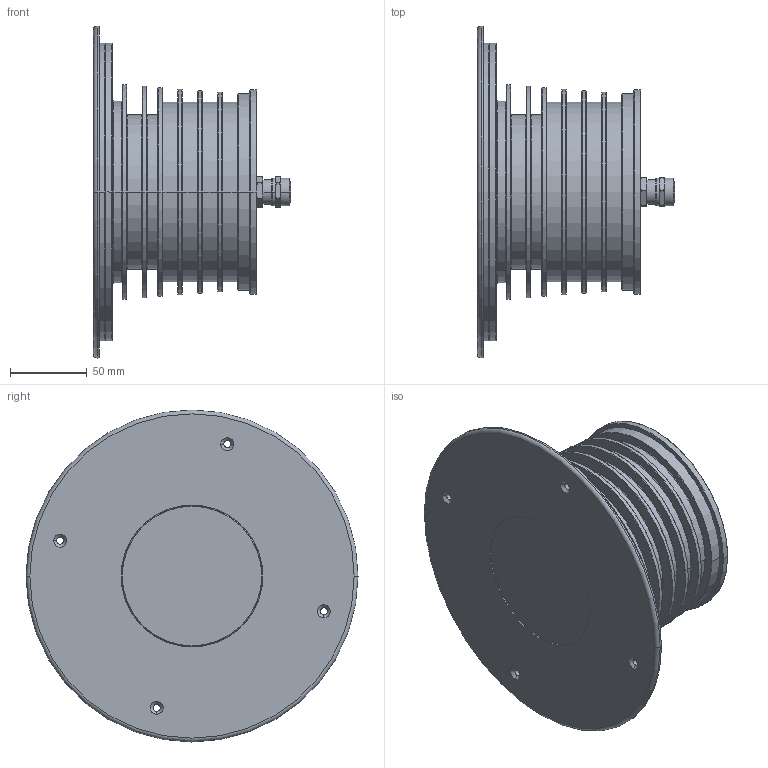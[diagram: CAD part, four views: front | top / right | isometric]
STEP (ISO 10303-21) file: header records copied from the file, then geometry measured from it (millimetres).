
FILE_DESCRIPTION (( 'STEP AP214' ), '1' );
FILE_NAME ('Ground-Big-RD.STEP', '2023-04-03T06:17:20', ( '' ), ( '' ), 'SwSTEP 2.0', 'SolidWorks 2017', '' );
FILE_SCHEMA (( 'AUTOMOTIVE_DESIGN' ));
Length unit declared in the file: millimetre
Products named in the file (39): DK151110DD31_70; DK151110DD31_68; DK151110DD31_27; DK151110DD31_34; DK151110DD31_5; DK151110DD31_62; DK151110DD31_56; DK151110DD31_19; DK151110DD31_8; DK151110DD31_46; DK151110DD31_64; Ground-Big-RD; DK151110DD31_50; DK151110DD31_52; DK151110DD31_53; DK151110DD31_11; DK151110DD31_54; DK151110DD31_25; DK151110DD31; DK151110DD31_29; DK151110DD31_32; DK151110DD31_71; DK151110DD31_69; DK151110DD31_48; DK151110DD31_16; DK151110DD31_18; DK151110DD31_10; DK151110DD31_20; DK151110DD31_42; DK151110DD31_45; DK151110DD31_2; DK151110DD31_51; DK151110DD31_17; DK151110DD31_41; DK151110DD31_39; DK151110DD31_14; DK151110DD31_44; DK151110DD31_21; DK151110DD31_28
Assembly tree (38 placements, depth 2):
  Ground-Big-RD
    DK151110DD31_62
    DK151110DD31_48
    DK151110DD31_17
    DK151110DD31_41
    DK151110DD31_53
    DK151110DD31_50
    DK151110DD31_69
    DK151110DD31_16
    DK151110DD31_52
    DK151110DD31_21
    DK151110DD31_68
    DK151110DD31_11
    DK151110DD31_14
    DK151110DD31_25
    DK151110DD31_32
    DK151110DD31_56
    DK151110DD31_28
    DK151110DD31_8
    DK151110DD31_46
    DK151110DD31_10
    DK151110DD31_39
    DK151110DD31_64
    DK151110DD31_19
    DK151110DD31_51
    DK151110DD31_20
    DK151110DD31
    DK151110DD31_27
    DK151110DD31_71
    DK151110DD31_29
    DK151110DD31_45
    DK151110DD31_44
    DK151110DD31_70
    DK151110DD31_18
    DK151110DD31_42
    DK151110DD31_2
    DK151110DD31_34
    DK151110DD31_54
    DK151110DD31_5
Bounding box: 128.5 x 216.5 x 216.5 mm (x, y, z)
Surface area: 311368.5 mm2 (no closed solid volume)
Topology: 0 solids, 38 shells, 1101 faces, 2655 edges, 1673 vertices
Faces by surface type: plane 412, cylinder 346, cone 309, torus 34
Entity records: 34005 total; most frequent: CARTESIAN_POINT 6296, DIRECTION 5899, ORIENTED_EDGE 5194, EDGE_CURVE 2597, AXIS2_PLACEMENT_3D 2238, VERTEX_POINT 1671, VECTOR 1423, LINE 1423
